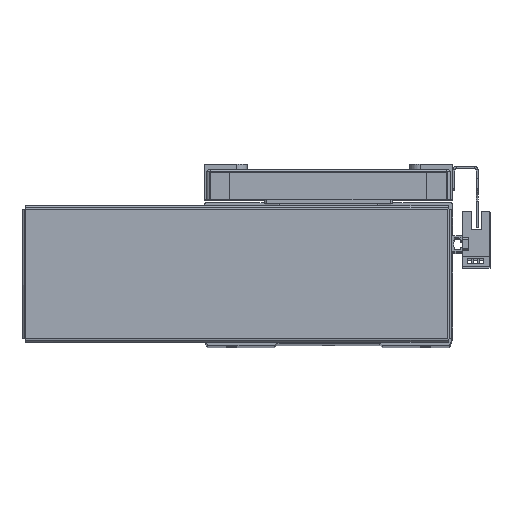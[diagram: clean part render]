
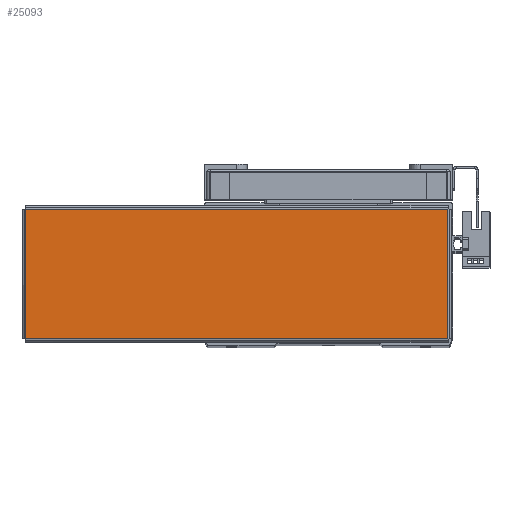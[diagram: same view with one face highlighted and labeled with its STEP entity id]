
A CAD part, top view. The second image highlights one B-rep face of the part: STEP entity #25093.
In plain terms, the highlighted planar face has unit normal (0, 0, 1) as drawn and (0, -1, 0) by its records, which use the part's own axes.
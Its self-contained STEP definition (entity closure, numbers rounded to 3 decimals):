
#7075 = PLANE ( 'NONE',  #9557 ) ;
#7216 = CARTESIAN_POINT ( 'NONE',  ( 0., -1., 0. ) ) ;
#7246 = DIRECTION ( 'NONE',  ( 0., 1., 0. ) ) ;
#7499 = DIRECTION ( 'NONE',  ( 0., 0., 1. ) ) ;
#9557 = AXIS2_PLACEMENT_3D ( 'NONE', #7216, #7246, #7499 ) ;
#12830 = EDGE_CURVE ( 'NONE', #17634, #17623, #14411, .T. ) ;
#12833 = EDGE_CURVE ( 'NONE', #17648, #17634, #14371, .T. ) ;
#12854 = EDGE_CURVE ( 'NONE', #17582, #17648, #14403, .T. ) ;
#12870 = EDGE_CURVE ( 'NONE', #17623, #17582, #14539, .T. ) ;
#14329 = VECTOR ( 'NONE', #42938, 1000. ) ;
#14371 = LINE ( 'NONE', #42989, #14437 ) ;
#14403 = LINE ( 'NONE', #43063, #14405 ) ;
#14405 = VECTOR ( 'NONE', #43044, 1000. ) ;
#14411 = LINE ( 'NONE', #42954, #14329 ) ;
#14437 = VECTOR ( 'NONE', #43010, 1000. ) ;
#14539 = LINE ( 'NONE', #43072, #14577 ) ;
#14577 = VECTOR ( 'NONE', #43107, 1000. ) ;
#17582 = VERTEX_POINT ( 'NONE', #34995 ) ;
#17623 = VERTEX_POINT ( 'NONE', #34965 ) ;
#17634 = VERTEX_POINT ( 'NONE', #35052 ) ;
#17648 = VERTEX_POINT ( 'NONE', #35016 ) ;
#22182 = FACE_OUTER_BOUND ( 'NONE', #32878, .T. ) ;
#25093 = ADVANCED_FACE ( 'NONE', ( #22182 ), #7075, .F. ) ;
#32878 = EDGE_LOOP ( 'NONE', ( #36324, #36210, #36280, #36305 ) ) ;
#34965 = CARTESIAN_POINT ( 'NONE',  ( 103.763, -1., 31.763 ) ) ;
#34995 = CARTESIAN_POINT ( 'NONE',  ( -103.763, -1., 31.763 ) ) ;
#35016 = CARTESIAN_POINT ( 'NONE',  ( -103.763, -1., -31.763 ) ) ;
#35052 = CARTESIAN_POINT ( 'NONE',  ( 103.763, -1., -31.763 ) ) ;
#36210 = ORIENTED_EDGE ( 'NONE', *, *, #12854, .T. ) ;
#36280 = ORIENTED_EDGE ( 'NONE', *, *, #12833, .T. ) ;
#36305 = ORIENTED_EDGE ( 'NONE', *, *, #12830, .T. ) ;
#36324 = ORIENTED_EDGE ( 'NONE', *, *, #12870, .T. ) ;
#42938 = DIRECTION ( 'NONE',  ( 0., 0., 1. ) ) ;
#42954 = CARTESIAN_POINT ( 'NONE',  ( 103.763, -1., -31.793 ) ) ;
#42989 = CARTESIAN_POINT ( 'NONE',  ( -103.793, -1., -31.763 ) ) ;
#43010 = DIRECTION ( 'NONE',  ( 1., 0., 0. ) ) ;
#43044 = DIRECTION ( 'NONE',  ( 0., 0., -1. ) ) ;
#43063 = CARTESIAN_POINT ( 'NONE',  ( -103.763, -1., 31.793 ) ) ;
#43072 = CARTESIAN_POINT ( 'NONE',  ( 103.793, -1., 31.763 ) ) ;
#43107 = DIRECTION ( 'NONE',  ( -1., 0., 0. ) ) ;
